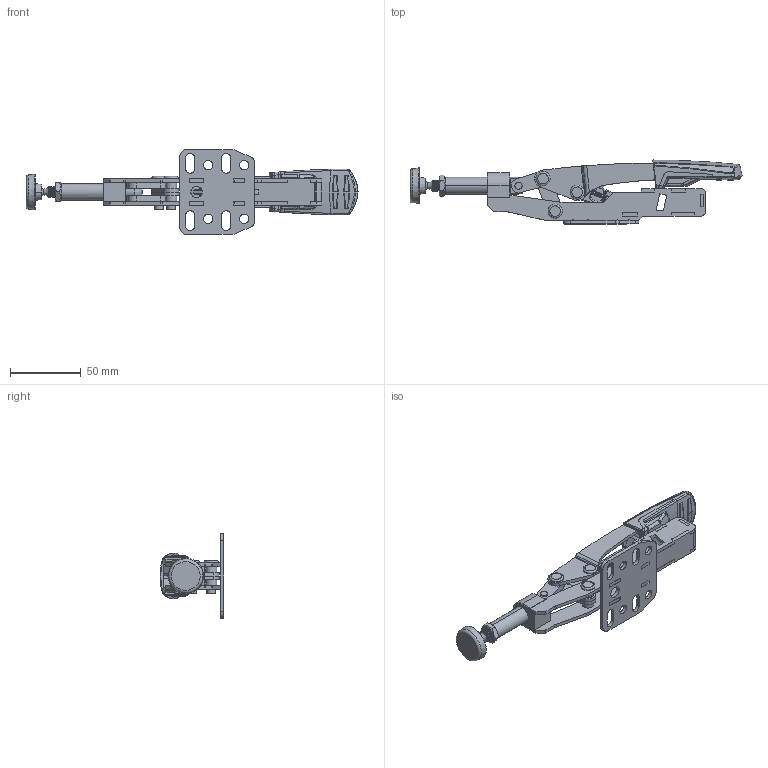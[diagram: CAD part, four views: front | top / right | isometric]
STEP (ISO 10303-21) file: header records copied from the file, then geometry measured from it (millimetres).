
FILE_DESCRIPTION( ('This file contains a STEP AP42 implementation' ,'as created by ZW3D STEP Interface translator.') ,'2;1' );
FILE_NAME( 'STC-IHH25 geschlossen.stp' ,'23 2 2. 9 644', (''), ('ZWCAD Software Co.'), 'Version 1.0', 'ZW3D to STEP translator', '' );
FILE_SCHEMA(('AUTOMOTIVE_DESIGN { 1 0 10303 214 1 1 1 1 }'));
Length unit declared in the file: millimetre
Products named in the file (1): 0
Bounding box: 234.46 x 45.16 x 60 mm (x, y, z)
Volume: 72816.9 mm3; surface area: 62903.9 mm2
Topology: 34 solids, 34 shells, 1178 faces, 3048 edges, 2104 vertices
Faces by surface type: plane 426, bspline 356, cylinder 304, torus 51, cone 27, sphere 14
Full cylindrical faces by diameter (mm): 1 x2, 1.5 x2, 3 x2, 3.3 x3, 3.9 x1, 3.909 x1, 4 x3, 5 x6, 5.1 x2, 6 x9, 6.05 x8, 6.2 x2, 6.5 x4, 6.8 x2, 7 x1, 7.5 x2, 8 x34, 9 x1, 10 x3, 12 x1, 20.8 x1, 22.7 x1
Entity records: 156401 total; most frequent: CARTESIAN_POINT 129731, ORIENTED_EDGE 5760, DIRECTION 4145, EDGE_CURVE 2880, VERTEX_POINT 1806, AXIS2_PLACEMENT_3D 1382, VECTOR 1381, LINE 1381
